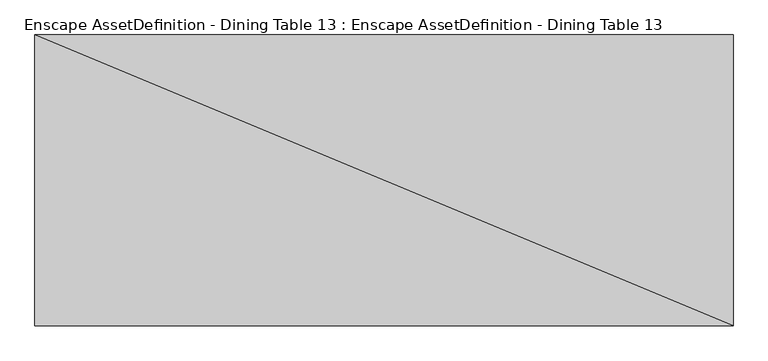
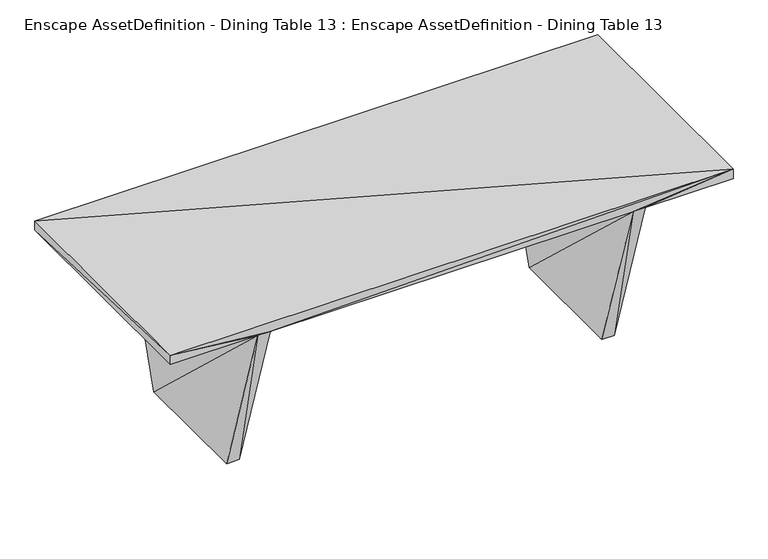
"""IFC4 building model written with IfcOpenShell, lengths in millimetres: geographic element geometry, Enscape AssetDefinition - Dining Table 13 : Enscape AssetDefinition - Dining Table 13."""

from ifc_helpers import new_model, si_unit, origin, place, context, project, spatial, faceted_brep, source, transform, mapped, element, save


def enscape_assetdefinition_dining_table_13_enscape_23bd2d82(model_context):
    return source(origin(), model_context, "Body", "Brep", [
        faceted_brep([(826.0331154, 499.8205602, 718.6455727), (826.0331154, 267.8661942, 2.1e-06), (773.0385065, 267.8661942, 2.1e-06), (773.0385065, -267.8661942, -2.1e-06), (826.0331154, -267.8661942, -2.1e-06), (773.0385065, -499.8205602, 718.6455727), (773.0385065, 499.8205602, 718.6455727), (826.0331154, -499.8205602, 718.6455727), (1199.5693445, 499.8205602, 718.6455727), (1199.5693445, 499.8205602, 759.7269416), (1199.5693445, -499.8205602, 718.6455727), (1199.5693445, -499.8205602, 759.7269416), (-772.478044, -499.8205602, 718.6455727), (-1199.5693445, 499.8205602, 759.7269416), (-1199.5693445, -499.8205602, 759.7269416), (-772.478044, 499.8205602, 718.6455727), (-825.9456158, 499.8205602, 718.6455727), (-1199.5693445, 499.8205602, 718.6455727), (-1199.5693445, -499.8205602, 718.6455727), (-825.9456158, -499.8205602, 718.6455727), (-825.9456158, 267.8661942, 2.1e-06), (-825.9456158, -267.8661942, -2.1e-06), (-772.478044, -267.8661942, -2.1e-06), (-772.478044, 267.8661942, 2.1e-06)], [[[0, 1, 2]], [[3, 2, 1]], [[4, 1, 0]], [[3, 1, 4]], [[5, 6, 2]], [[0, 2, 6]], [[5, 2, 3]], [[5, 3, 4]], [[5, 4, 7]], [[4, 0, 7]], [[8, 0, 9]], [[0, 6, 9]], [[8, 7, 0]], [[7, 10, 11]], [[5, 7, 11]], [[8, 10, 7]], [[12, 5, 11]], [[6, 5, 12]], [[13, 14, 11]], [[13, 11, 9]], [[10, 9, 11]], [[12, 11, 14]], [[10, 8, 9]], [[6, 13, 9]], [[6, 15, 13]], [[15, 16, 13]], [[16, 17, 13]], [[17, 14, 13]], [[18, 19, 14]], [[17, 18, 14]], [[19, 12, 14]], [[18, 17, 16]], [[19, 16, 20]], [[15, 20, 16]], [[18, 16, 19]], [[19, 21, 22]], [[19, 22, 12]], [[19, 20, 21]], [[15, 23, 20]], [[21, 20, 23]], [[21, 23, 22]], [[22, 23, 15]], [[22, 15, 12]], [[6, 12, 15]]]),
    ])


if __name__ == "__main__":
    model = new_model("IFC4")
    model_context = context("Model", 3, world=origin())
    ifc_project = project(units=[si_unit("LENGTHUNIT", "METRE", prefix="MILLI")], contexts=[model_context])
    site = spatial("IfcSite", under=ifc_project)
    building = spatial("IfcBuilding", under=site)
    placement = place(None, origin())
    enscape_assetdefinition_dining_table_13_enscape_shape = enscape_assetdefinition_dining_table_13_enscape_23bd2d82(model_context)
    element("IfcGeographicElement", 1, ObjectType="Enscape AssetDefinition - Dining Table 13 : Enscape AssetDefinition - Dining Table 13", at=placement, inside=building, context=model_context, shape_type="MappedRepresentation", body=[
        mapped(enscape_assetdefinition_dining_table_13_enscape_shape, transform((0.0, 0.0, 0.0), x_axis=(1.0, 0.0, 0.0), y_axis=(0.0, 1.0, 0.0), z_axis=(0.0, 0.0, 1.0))),
    ])
    save(model, "model.ifc")
